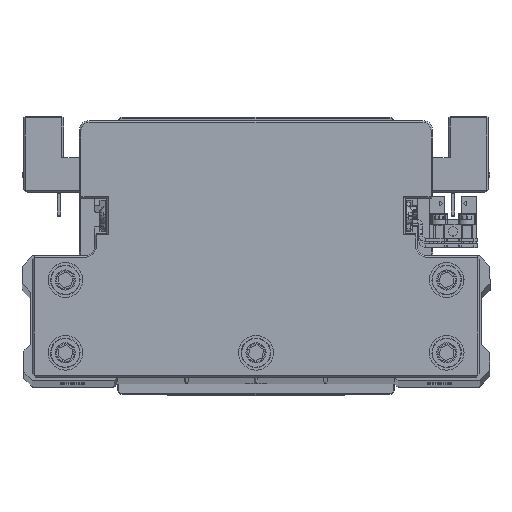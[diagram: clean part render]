
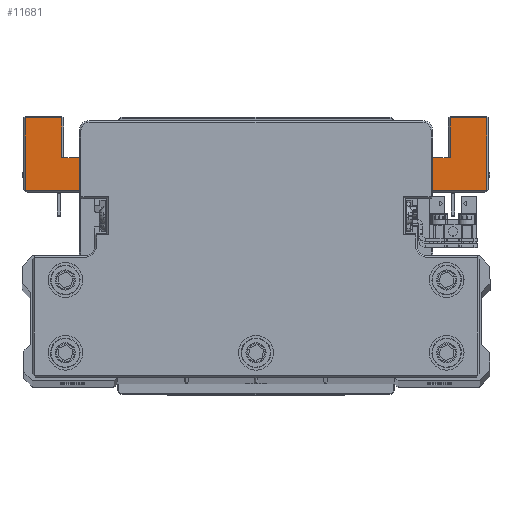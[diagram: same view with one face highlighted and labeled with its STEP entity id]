
A CAD part, top view. The second image highlights one B-rep face of the part: STEP entity #11681.
In plain terms, the highlighted planar face has unit normal (0, 0, 1) as drawn and (0, -1, 0) by its records, which use the part's own axes.
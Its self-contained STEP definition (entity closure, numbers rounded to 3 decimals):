
#41 = CARTESIAN_POINT ( 'NONE',  ( -39.868, -45., -42.987 ) ) ;
#97 = ORIENTED_EDGE ( 'NONE', *, *, #19948, .F. ) ;
#257 = EDGE_CURVE ( 'NONE', #18481, #20574, #9857, .T. ) ;
#433 = CARTESIAN_POINT ( 'NONE',  ( 40.066, -45., -41.5 ) ) ;
#437 = ORIENTED_EDGE ( 'NONE', *, *, #22291, .T. ) ;
#768 = CARTESIAN_POINT ( 'NONE',  ( 39.868, -45., -42.987 ) ) ;
#1087 = EDGE_CURVE ( 'NONE', #7441, #1282, #6059, .T. ) ;
#1282 = VERTEX_POINT ( 'NONE', #36122 ) ;
#1380 = CARTESIAN_POINT ( 'NONE',  ( 0., -45., 0. ) ) ;
#1489 = VECTOR ( 'NONE', #15574, 1000. ) ;
#1615 = CARTESIAN_POINT ( 'NONE',  ( 55.5, -45., -52.5 ) ) ;
#1789 = LINE ( 'NONE', #14309, #38793 ) ;
#1915 = EDGE_CURVE ( 'NONE', #31934, #24036, #31122, .T. ) ;
#2122 = CARTESIAN_POINT ( 'NONE',  ( 40.066, -45., -43. ) ) ;
#2729 = CARTESIAN_POINT ( 'NONE',  ( 46., -45., -52.5 ) ) ;
#3044 = CARTESIAN_POINT ( 'NONE',  ( -39.868, -45., -42.987 ) ) ;
#3109 = CARTESIAN_POINT ( 'NONE',  ( -46., -45., -54. ) ) ;
#3164 = CARTESIAN_POINT ( 'NONE',  ( -66.5, -45., -64.5 ) ) ;
#3310 = CARTESIAN_POINT ( 'NONE',  ( -36.217, -45., -42.5 ) ) ;
#3522 = EDGE_CURVE ( 'NONE', #5541, #6734, #27416, .T. ) ;
#3997 = LINE ( 'NONE', #16504, #35449 ) ;
#4576 = EDGE_CURVE ( 'NONE', #9397, #5541, #27591, .T. ) ;
#4725 = VECTOR ( 'NONE', #31067, 1000. ) ;
#4785 = VECTOR ( 'NONE', #14142, 1000. ) ;
#5053 = VERTEX_POINT ( 'NONE', #2729 ) ;
#5360 = AXIS2_PLACEMENT_3D ( 'NONE', #433, #12966, #25454 ) ;
#5541 = VERTEX_POINT ( 'NONE', #37127 ) ;
#6057 = ORIENTED_EDGE ( 'NONE', *, *, #17185, .T. ) ;
#6059 = LINE ( 'NONE', #18573, #4725 ) ;
#6299 = DIRECTION ( 'NONE',  ( -1., 0., 0. ) ) ;
#6445 = CARTESIAN_POINT ( 'NONE',  ( 67., -45., -64. ) ) ;
#6720 = DIRECTION ( 'NONE',  ( 0., 1., 0. ) ) ;
#6734 = VERTEX_POINT ( 'NONE', #11537 ) ;
#7334 = LINE ( 'NONE', #19836, #22888 ) ;
#7357 = DIRECTION ( 'NONE',  ( 0., 0., 1. ) ) ;
#7441 = VERTEX_POINT ( 'NONE', #768 ) ;
#8179 = EDGE_CURVE ( 'NONE', #13136, #7441, #23017, .T. ) ;
#8644 = EDGE_CURVE ( 'NONE', #23137, #5053, #29700, .T. ) ;
#9397 = VERTEX_POINT ( 'NONE', #16117 ) ;
#9619 = CARTESIAN_POINT ( 'NONE',  ( 46., -45., -54. ) ) ;
#9857 = LINE ( 'NONE', #22357, #11898 ) ;
#9899 = AXIS2_PLACEMENT_3D ( 'NONE', #34800, #6720, #19219 ) ;
#10042 = VECTOR ( 'NONE', #15678, 1000. ) ;
#11537 = CARTESIAN_POINT ( 'NONE',  ( -56., -45., -52.5 ) ) ;
#11681 = ADVANCED_FACE ( 'NONE', ( #16974 ), #29464, .T. ) ;
#11856 = DIRECTION ( 'NONE',  ( 0., 0., 1. ) ) ;
#11898 = VECTOR ( 'NONE', #34843, 1000. ) ;
#11997 = VERTEX_POINT ( 'NONE', #13068 ) ;
#12026 = DIRECTION ( 'NONE',  ( 1., 0., 0. ) ) ;
#12821 = VECTOR ( 'NONE', #11856, 1000. ) ;
#12966 = DIRECTION ( 'NONE',  ( 0., 1., 0. ) ) ;
#13068 = CARTESIAN_POINT ( 'NONE',  ( -66.5, -45., -43. ) ) ;
#13136 = VERTEX_POINT ( 'NONE', #2122 ) ;
#13749 = LINE ( 'NONE', #26239, #30066 ) ;
#13907 = DIRECTION ( 'NONE',  ( 0., -1., 0. ) ) ;
#13951 = EDGE_CURVE ( 'NONE', #18140, #22038, #22947, .T. ) ;
#14142 = DIRECTION ( 'NONE',  ( -1., 0., 0. ) ) ;
#14309 = CARTESIAN_POINT ( 'NONE',  ( -55.5, -45., -52.5 ) ) ;
#14536 = VERTEX_POINT ( 'NONE', #36213 ) ;
#14613 = VERTEX_POINT ( 'NONE', #36828 ) ;
#14843 = EDGE_CURVE ( 'NONE', #23137, #14613, #3997, .T. ) ;
#15238 = ORIENTED_EDGE ( 'NONE', *, *, #15798, .F. ) ;
#15285 = LINE ( 'NONE', #27772, #18111 ) ;
#15552 = EDGE_CURVE ( 'NONE', #18481, #29741, #37694, .T. ) ;
#15574 = DIRECTION ( 'NONE',  ( -0.991, 0., -0.132 ) ) ;
#15678 = DIRECTION ( 'NONE',  ( 0., 0., -1. ) ) ;
#15798 = EDGE_CURVE ( 'NONE', #20574, #6734, #1789, .T. ) ;
#15935 = CARTESIAN_POINT ( 'NONE',  ( 56., -45., -52.5 ) ) ;
#16117 = CARTESIAN_POINT ( 'NONE',  ( -66.5, -45., -64. ) ) ;
#16501 = CARTESIAN_POINT ( 'NONE',  ( 46., -45., -54. ) ) ;
#16504 = CARTESIAN_POINT ( 'NONE',  ( 56., -45., -64.5 ) ) ;
#16974 = FACE_OUTER_BOUND ( 'NONE', #30735, .T. ) ;
#17185 = EDGE_CURVE ( 'NONE', #24036, #14536, #27573, .T. ) ;
#18111 = VECTOR ( 'NONE', #40290, 1000. ) ;
#18140 = VERTEX_POINT ( 'NONE', #35108 ) ;
#18481 = VERTEX_POINT ( 'NONE', #3109 ) ;
#18573 = CARTESIAN_POINT ( 'NONE',  ( 25.802, -45., -41.111 ) ) ;
#18953 = DIRECTION ( 'NONE',  ( 1., 0., 0. ) ) ;
#19219 = DIRECTION ( 'NONE',  ( 0., 0., -1. ) ) ;
#19308 = EDGE_CURVE ( 'NONE', #11997, #9397, #31239, .T. ) ;
#19836 = CARTESIAN_POINT ( 'NONE',  ( -66., -45., -43. ) ) ;
#19948 = EDGE_CURVE ( 'NONE', #5053, #29741, #13749, .T. ) ;
#20373 = EDGE_CURVE ( 'NONE', #14536, #11997, #7334, .T. ) ;
#20574 = VERTEX_POINT ( 'NONE', #25868 ) ;
#21885 = LINE ( 'NONE', #34380, #23165 ) ;
#22038 = VERTEX_POINT ( 'NONE', #29614 ) ;
#22122 = DIRECTION ( 'NONE',  ( 1., 0., 0. ) ) ;
#22291 = EDGE_CURVE ( 'NONE', #14613, #18140, #34522, .T. ) ;
#22357 = CARTESIAN_POINT ( 'NONE',  ( -46., -45., -52.5 ) ) ;
#22615 = AXIS2_PLACEMENT_3D ( 'NONE', #1380, #13907, #26389 ) ;
#22888 = VECTOR ( 'NONE', #32336, 1000. ) ;
#22947 = LINE ( 'NONE', #35439, #34087 ) ;
#23017 = CIRCLE ( 'NONE', #5360, 1.5 ) ;
#23137 = VERTEX_POINT ( 'NONE', #15935 ) ;
#23165 = VECTOR ( 'NONE', #6299, 1000. ) ;
#23739 = VECTOR ( 'NONE', #22122, 1000. ) ;
#24036 = VERTEX_POINT ( 'NONE', #41 ) ;
#24129 = ORIENTED_EDGE ( 'NONE', *, *, #13951, .T. ) ;
#24200 = ORIENTED_EDGE ( 'NONE', *, *, #4576, .T. ) ;
#25454 = DIRECTION ( 'NONE',  ( 0., 0., -1. ) ) ;
#25868 = CARTESIAN_POINT ( 'NONE',  ( -46., -45., -52.5 ) ) ;
#26239 = CARTESIAN_POINT ( 'NONE',  ( 46., -45., -52.5 ) ) ;
#26389 = DIRECTION ( 'NONE',  ( 0., 0., -1. ) ) ;
#26793 = DIRECTION ( 'NONE',  ( -1., 0., 0. ) ) ;
#27416 = LINE ( 'NONE', #39932, #12821 ) ;
#27426 = ORIENTED_EDGE ( 'NONE', *, *, #38312, .T. ) ;
#27573 = CIRCLE ( 'NONE', #9899, 1.5 ) ;
#27591 = LINE ( 'NONE', #40104, #27927 ) ;
#27772 = CARTESIAN_POINT ( 'NONE',  ( 40.066, -45., -43. ) ) ;
#27784 = EDGE_CURVE ( 'NONE', #1282, #31934, #21885, .T. ) ;
#27927 = VECTOR ( 'NONE', #12026, 1000. ) ;
#28991 = DIRECTION ( 'NONE',  ( 0., 0., -1. ) ) ;
#29464 = PLANE ( 'NONE',  #22615 ) ;
#29589 = ORIENTED_EDGE ( 'NONE', *, *, #19308, .T. ) ;
#29614 = CARTESIAN_POINT ( 'NONE',  ( 66.5, -45., -43. ) ) ;
#29700 = LINE ( 'NONE', #1615, #4785 ) ;
#29741 = VERTEX_POINT ( 'NONE', #16501 ) ;
#29803 = ORIENTED_EDGE ( 'NONE', *, *, #8644, .F. ) ;
#30066 = VECTOR ( 'NONE', #38751, 1000. ) ;
#30735 = EDGE_LOOP ( 'NONE', ( #35525, #31441, #6057, #31836, #29589, #24200, #34246, #15238, #37338, #39099, #97, #29803, #39955, #437, #24129, #27426, #32788, #34236 ) ) ;
#31067 = DIRECTION ( 'NONE',  ( -0.991, 0., 0.132 ) ) ;
#31122 = LINE ( 'NONE', #3044, #1489 ) ;
#31239 = LINE ( 'NONE', #3164, #10042 ) ;
#31441 = ORIENTED_EDGE ( 'NONE', *, *, #1915, .T. ) ;
#31836 = ORIENTED_EDGE ( 'NONE', *, *, #20373, .T. ) ;
#31934 = VERTEX_POINT ( 'NONE', #3310 ) ;
#32336 = DIRECTION ( 'NONE',  ( -1., 0., 0. ) ) ;
#32788 = ORIENTED_EDGE ( 'NONE', *, *, #8179, .T. ) ;
#34087 = VECTOR ( 'NONE', #7357, 1000. ) ;
#34236 = ORIENTED_EDGE ( 'NONE', *, *, #1087, .T. ) ;
#34246 = ORIENTED_EDGE ( 'NONE', *, *, #3522, .T. ) ;
#34380 = CARTESIAN_POINT ( 'NONE',  ( -77.786, -45., -42.5 ) ) ;
#34522 = LINE ( 'NONE', #6445, #40389 ) ;
#34800 = CARTESIAN_POINT ( 'NONE',  ( -40.066, -45., -41.5 ) ) ;
#34843 = DIRECTION ( 'NONE',  ( 0., 0., 1. ) ) ;
#35108 = CARTESIAN_POINT ( 'NONE',  ( 66.5, -45., -64. ) ) ;
#35439 = CARTESIAN_POINT ( 'NONE',  ( 66.5, -45., -43.5 ) ) ;
#35449 = VECTOR ( 'NONE', #28991, 1000. ) ;
#35525 = ORIENTED_EDGE ( 'NONE', *, *, #27784, .T. ) ;
#36122 = CARTESIAN_POINT ( 'NONE',  ( 36.217, -45., -42.5 ) ) ;
#36213 = CARTESIAN_POINT ( 'NONE',  ( -40.066, -45., -43. ) ) ;
#36828 = CARTESIAN_POINT ( 'NONE',  ( 56., -45., -64. ) ) ;
#37127 = CARTESIAN_POINT ( 'NONE',  ( -56., -45., -64. ) ) ;
#37338 = ORIENTED_EDGE ( 'NONE', *, *, #257, .F. ) ;
#37694 = LINE ( 'NONE', #9619, #23739 ) ;
#38312 = EDGE_CURVE ( 'NONE', #22038, #13136, #15285, .T. ) ;
#38751 = DIRECTION ( 'NONE',  ( 0., 0., -1. ) ) ;
#38793 = VECTOR ( 'NONE', #26793, 1000. ) ;
#39099 = ORIENTED_EDGE ( 'NONE', *, *, #15552, .T. ) ;
#39932 = CARTESIAN_POINT ( 'NONE',  ( -56., -45., -52.5 ) ) ;
#39955 = ORIENTED_EDGE ( 'NONE', *, *, #14843, .T. ) ;
#40104 = CARTESIAN_POINT ( 'NONE',  ( -55.5, -45., -64. ) ) ;
#40290 = DIRECTION ( 'NONE',  ( -1., 0., 0. ) ) ;
#40389 = VECTOR ( 'NONE', #18953, 1000. ) ;
